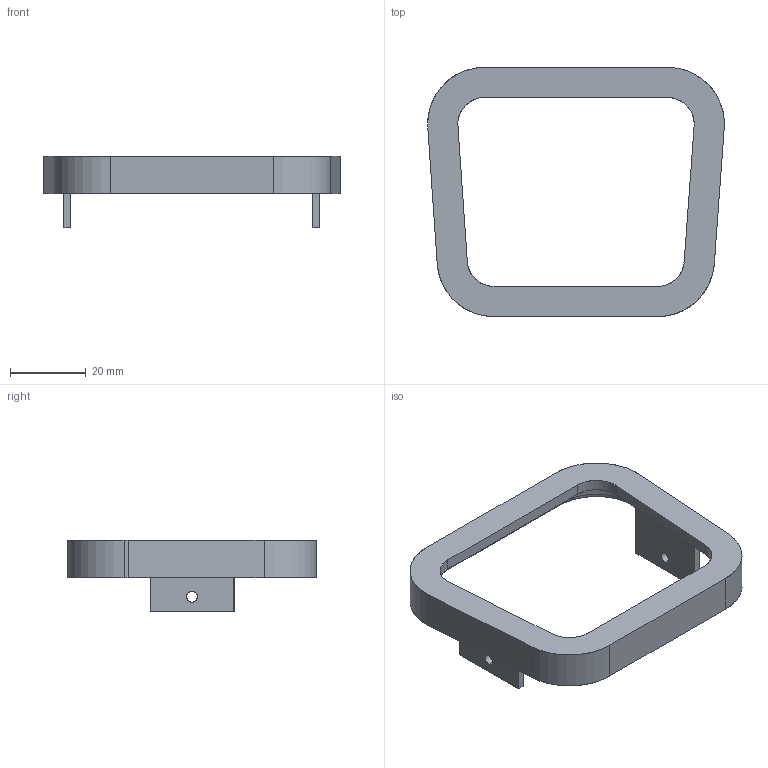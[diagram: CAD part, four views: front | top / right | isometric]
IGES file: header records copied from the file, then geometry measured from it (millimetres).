
Start section: SolidWorks IGES file using analytic representation for surfaces
Global section: file name: C:\Users\Atakan\Documents\tridi\Bantaþ kamera\step-iges\on kapak.IGS; native system: SolidWorks 2015; preprocessor: SolidWorks 2015; author: Atakan; date: 161103.171537; units: millimetre
Bounding box: 78.59 x 66 x 19 mm (x, y, z)
Surface area: 10139.6 mm2 (no closed solid volume)
Topology: 0 solids, 0 shells, 54 faces, 704 edges, 704 vertices
Faces by surface type: bspline 30, revolution 24
